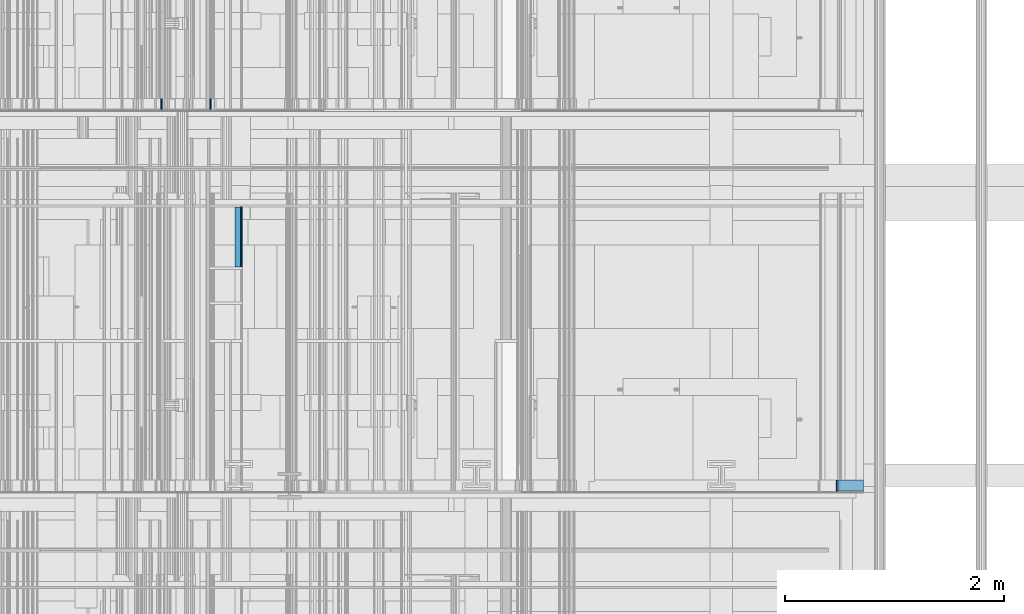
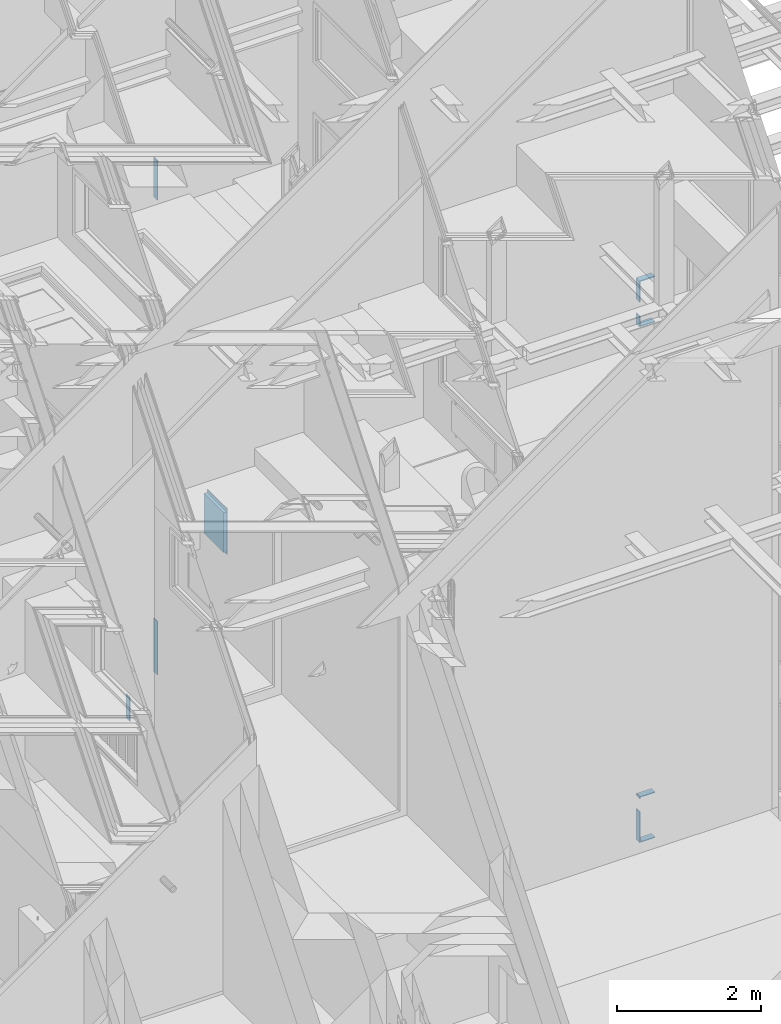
# One storey, part 227 of 583: 14 building element parts, 9 elements without a shape of their own.
"""IFC2X3 building model written with IfcOpenShell, lengths in metres."""

from ifc_helpers import new_model, entity, si_unit, converted_unit, derived_unit, money_unit, direction, frame, frame_2d, origin_with_axes, place, context, subcontext, project, spatial, polyline, rectangle, outline, extrude, material, type_object, element, aggregate, save


model = new_model("IFC2X3")

# Units and contexts
model_context = context("Model", 3, precision=1e-05, world=origin_with_axes(), true_north=direction((0.0, 1.0)))
body_context = subcontext(model_context, "Body", "Model", "MODEL_VIEW", scale=1.0)
ifc_project = project(units=[si_unit("LENGTHUNIT", "METRE"), si_unit("AREAUNIT", "SQUARE_METRE"), si_unit("VOLUMEUNIT", "CUBIC_METRE"), si_unit("ABSORBEDDOSEUNIT", "GRAY"), si_unit("AMOUNTOFSUBSTANCEUNIT", "MOLE"), si_unit("DOSEEQUIVALENTUNIT", "SIEVERT"), si_unit("ELECTRICCAPACITANCEUNIT", "FARAD"), si_unit("ELECTRICCHARGEUNIT", "COULOMB"), si_unit("ELECTRICCONDUCTANCEUNIT", "SIEMENS"), si_unit("ELECTRICCURRENTUNIT", "AMPERE"), si_unit("ELECTRICRESISTANCEUNIT", "OHM"), si_unit("ELECTRICVOLTAGEUNIT", "VOLT"), si_unit("ENERGYUNIT", "JOULE"), si_unit("FORCEUNIT", "NEWTON"), si_unit("FREQUENCYUNIT", "HERTZ"), si_unit("ILLUMINANCEUNIT", "LUX"), si_unit("INDUCTANCEUNIT", "HENRY"), si_unit("LUMINOUSFLUXUNIT", "LUMEN"), si_unit("LUMINOUSINTENSITYUNIT", "CANDELA"), si_unit("MAGNETICFLUXDENSITYUNIT", "TESLA"), si_unit("MAGNETICFLUXUNIT", "WEBER"), si_unit("MASSUNIT", "GRAM"), converted_unit("PLANEANGLEUNIT", "degree", entity("IfcReal", 0.0174532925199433), si_unit("PLANEANGLEUNIT", "RADIAN"), dimensions=[0, 0, 0, 0, 0, 0, 0]), si_unit("POWERUNIT", "WATT"), si_unit("PRESSUREUNIT", "PASCAL"), si_unit("RADIOACTIVITYUNIT", "BECQUEREL"), si_unit("SOLIDANGLEUNIT", "STERADIAN"), si_unit("THERMODYNAMICTEMPERATUREUNIT", "KELVIN"), si_unit("TIMEUNIT", "SECOND"), derived_unit("ACCELERATIONUNIT", [(si_unit("LENGTHUNIT", "METRE"), 1), (si_unit("TIMEUNIT", "SECOND"), -2)]), derived_unit("ANGULARVELOCITYUNIT", [(converted_unit("PLANEANGLEUNIT", "degree", entity("IfcReal", 0.0174532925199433), si_unit("PLANEANGLEUNIT", "RADIAN"), dimensions=[0, 0, 0, 0, 0, 0, 0]), 1), (si_unit("TIMEUNIT", "SECOND"), -1)]), derived_unit("CURVATUREUNIT", [(converted_unit("PLANEANGLEUNIT", "degree", entity("IfcReal", 0.0174532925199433), si_unit("PLANEANGLEUNIT", "RADIAN"), dimensions=[0, 0, 0, 0, 0, 0, 0]), 1), (si_unit("LENGTHUNIT", "METRE"), -1)]), derived_unit("DYNAMICVISCOSITYUNIT", [(si_unit("PRESSUREUNIT", "PASCAL"), 1), (si_unit("TIMEUNIT", "SECOND"), 1)]), derived_unit("HEATFLUXDENSITYUNIT", [(si_unit("POWERUNIT", "WATT"), 1), (si_unit("LENGTHUNIT", "METRE"), -2)]), derived_unit("HEATINGVALUEUNIT", [(si_unit("ENERGYUNIT", "JOULE"), 1), (si_unit("MASSUNIT", "GRAM"), -1)]), derived_unit("INTEGERCOUNTRATEUNIT", [(si_unit("TIMEUNIT", "SECOND"), -1)]), derived_unit("IONCONCENTRATIONUNIT", [(si_unit("MASSUNIT", "GRAM"), 1), (si_unit("VOLUMEUNIT", "CUBIC_METRE"), -1)]), derived_unit("ISOTHERMALMOISTURECAPACITYUNIT", [(si_unit("VOLUMEUNIT", "CUBIC_METRE"), 1), (si_unit("MASSUNIT", "GRAM"), -1)]), derived_unit("KINEMATICVISCOSITYUNIT", [(si_unit("AREAUNIT", "SQUARE_METRE"), 1), (si_unit("TIMEUNIT", "SECOND"), -1)]), derived_unit("LINEARFORCEUNIT", [(si_unit("FORCEUNIT", "NEWTON"), 1), (si_unit("LENGTHUNIT", "METRE"), -1)]), derived_unit("LINEARMOMENTUNIT", [(si_unit("FORCEUNIT", "NEWTON"), 1), (si_unit("LENGTHUNIT", "METRE"), -1)]), derived_unit("LINEARSTIFFNESSUNIT", [(si_unit("FORCEUNIT", "NEWTON"), 1), (si_unit("LENGTHUNIT", "METRE"), -1)]), derived_unit("LINEARVELOCITYUNIT", [(si_unit("LENGTHUNIT", "METRE"), 1), (si_unit("TIMEUNIT", "SECOND"), -1)]), derived_unit("LUMINOUSINTENSITYDISTRIBUTIONUNIT", [(si_unit("LUMINOUSINTENSITYUNIT", "CANDELA"), 1), (si_unit("LUMINOUSFLUXUNIT", "LUMEN"), -1)]), derived_unit("MASSDENSITYUNIT", [(si_unit("MASSUNIT", "GRAM"), 1), (si_unit("VOLUMEUNIT", "CUBIC_METRE"), -1)]), derived_unit("MASSFLOWRATEUNIT", [(si_unit("MASSUNIT", "GRAM"), 1), (si_unit("TIMEUNIT", "SECOND"), -1)]), derived_unit("MASSPERLENGTHUNIT", [(si_unit("MASSUNIT", "GRAM"), 1), (si_unit("LENGTHUNIT", "METRE"), -1)]), derived_unit("MODULUSOFELASTICITYUNIT", [(si_unit("FORCEUNIT", "NEWTON"), 1), (si_unit("AREAUNIT", "SQUARE_METRE"), -1)]), derived_unit("MODULUSOFLINEARSUBGRADEREACTIONUNIT", [(si_unit("FORCEUNIT", "NEWTON"), 1), (si_unit("LENGTHUNIT", "METRE"), -2)]), derived_unit("MODULUSOFROTATIONALSUBGRADEREACTIONUNIT", [(si_unit("FORCEUNIT", "NEWTON"), 1), (si_unit("LENGTHUNIT", "METRE"), 1)]), derived_unit("MODULUSOFSUBGRADEREACTIONUNIT", [(si_unit("FORCEUNIT", "NEWTON"), 1), (si_unit("VOLUMEUNIT", "CUBIC_METRE"), -1)]), derived_unit("MOISTUREDIFFUSIVITYUNIT", [(si_unit("VOLUMEUNIT", "CUBIC_METRE"), 1), (si_unit("TIMEUNIT", "SECOND"), -1)]), derived_unit("MOLECULARWEIGHTUNIT", [(si_unit("MASSUNIT", "GRAM"), 1), (si_unit("AMOUNTOFSUBSTANCEUNIT", "MOLE"), -1)]), derived_unit("PLANARFORCEUNIT", [(si_unit("FORCEUNIT", "NEWTON"), 1), (si_unit("LENGTHUNIT", "METRE"), -2)]), derived_unit("ROTATIONALFREQUENCYUNIT", [(si_unit("TIMEUNIT", "SECOND"), -1)]), derived_unit("ROTATIONALMASSUNIT", [(si_unit("MASSUNIT", "GRAM"), 1), (si_unit("LENGTHUNIT", "METRE"), 2)]), derived_unit("ROTATIONALSTIFFNESSUNIT", [(si_unit("FORCEUNIT", "NEWTON"), 1), (si_unit("LENGTHUNIT", "METRE"), 1), (converted_unit("PLANEANGLEUNIT", "degree", entity("IfcReal", 0.0174532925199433), si_unit("PLANEANGLEUNIT", "RADIAN"), dimensions=[0, 0, 0, 0, 0, 0, 0]), -1)]), derived_unit("SECTIONAREAINTEGRALUNIT", [(si_unit("LENGTHUNIT", "METRE"), 5)]), derived_unit("SECTIONMODULUSUNIT", [(si_unit("LENGTHUNIT", "METRE"), 3)]), derived_unit("SHEARMODULUSUNIT", [(si_unit("FORCEUNIT", "NEWTON"), 1), (si_unit("AREAUNIT", "SQUARE_METRE"), -1)]), derived_unit("SOUNDPOWERUNIT", [(si_unit("ENERGYUNIT", "JOULE"), 1), (si_unit("TIMEUNIT", "SECOND"), -1)]), derived_unit("SPECIFICHEATCAPACITYUNIT", [(si_unit("FORCEUNIT", "NEWTON"), 1), (si_unit("MASSUNIT", "GRAM"), -1), (si_unit("THERMODYNAMICTEMPERATUREUNIT", "KELVIN"), -1)]), derived_unit("TEMPERATUREGRADIENTUNIT", [(si_unit("THERMODYNAMICTEMPERATUREUNIT", "KELVIN"), 1), (si_unit("LENGTHUNIT", "METRE"), -1)]), derived_unit("THERMALADMITTANCEUNIT", [(si_unit("POWERUNIT", "WATT"), 1), (si_unit("AREAUNIT", "SQUARE_METRE"), -1), (si_unit("THERMODYNAMICTEMPERATUREUNIT", "KELVIN"), -1)]), derived_unit("THERMALCONDUCTANCEUNIT", [(si_unit("POWERUNIT", "WATT"), 1), (si_unit("LENGTHUNIT", "METRE"), -1), (si_unit("THERMODYNAMICTEMPERATUREUNIT", "KELVIN"), -1)]), derived_unit("THERMALEXPANSIONCOEFFICIENTUNIT", [(si_unit("THERMODYNAMICTEMPERATUREUNIT", "KELVIN"), -1)]), derived_unit("THERMALRESISTANCEUNIT", [(si_unit("AREAUNIT", "SQUARE_METRE"), 1), (si_unit("POWERUNIT", "WATT"), -1)]), derived_unit("THERMALTRANSMITTANCEUNIT", [(si_unit("POWERUNIT", "WATT"), 1), (si_unit("AREAUNIT", "SQUARE_METRE"), -1), (si_unit("THERMODYNAMICTEMPERATUREUNIT", "KELVIN"), -1)]), derived_unit("TORQUEUNIT", [(si_unit("FORCEUNIT", "NEWTON"), 1), (si_unit("LENGTHUNIT", "METRE"), 1)]), derived_unit("VAPORPERMEABILITYUNIT", [(si_unit("MASSUNIT", "GRAM"), 1), (si_unit("TIMEUNIT", "SECOND"), -1)]), derived_unit("VOLUMETRICFLOWRATEUNIT", [(si_unit("VOLUMEUNIT", "CUBIC_METRE"), 1), (si_unit("TIMEUNIT", "SECOND"), -1)]), derived_unit("WARPINGCONSTANTUNIT", [(si_unit("LENGTHUNIT", "METRE"), 6)]), derived_unit("WARPINGMOMENTUNIT", [(si_unit("FORCEUNIT", "NEWTON"), 1), (si_unit("LENGTHUNIT", "METRE"), 2)]), money_unit("GBP")], contexts=[model_context])

# Site, building, storey
site_placement = place(None, origin_with_axes())
site = spatial("IfcSite", under=ifc_project, at=site_placement, Name="Site", CompositionType="ELEMENT")
building_placement = place(site_placement, origin_with_axes())
building = spatial("IfcBuilding", under=site, at=building_placement, Name="Building01", CompositionType="ELEMENT")
storey_placement = place(building_placement, frame((0.0, 0.0, 20.78), z_axis=(0.0, 0.0, 1.0), x_axis=(1.0, 0.0, 0.0)))
storey = spatial("IfcBuildingStorey", under=building, at=storey_placement, Name="RL", CompositionType="ELEMENT", Elevation=20.78)

# Wall, building element part
wall_type_1 = type_object("IfcWallType", Name="SHE_A-Walls_Type04c_RiserWall_102mm_tall", PredefinedType="NOTDEFINED")
wall_1_placement = place(storey_placement, frame((8.372405, 12.145, -12.122), z_axis=(0.0, 1.0, 0.0), x_axis=(0.0, 0.0, 1.0)))
wall_1 = element("IfcWall", 1, at=wall_1_placement, inside=storey, type_object=wall_type_1, Name="4C", ObjectType="SHE_A-Walls_Type04c_RiserWall_102mm_tall")
ifc_material_1 = material(Name="A_BSUK_Walls_Timber")
building_element_part_1_placement = place(wall_1_placement, origin_with_axes())
building_element_part_1 = element("IfcBuildingElementPart", 2, at=building_element_part_1_placement, material=ifc_material_1, Name="1", context=body_context, shape_type="SweptSolid", body=[
    extrude(outline(polyline([(0.402, 0.015), (-0.015, 0.015), (0.0, 0.0), (0.402, 0.0), (0.402, 0.015)])), origin_with_axes(), (0.0, 0.0, 1.0), 0.1),
])
aggregate(wall_1, [building_element_part_1])

# Wall, building element parts
wall_type_2 = type_object("IfcWallType", Name="SHE_A-Walls_Type03a_BlockworkWall_170mm", PredefinedType="NOTDEFINED")
wall_2_placement = place(storey_placement, frame((8.805, 12.13, -2.795), z_axis=(0.0, 1.0, 0.0), x_axis=(0.0, 0.0, -1.0)))
wall_2 = element("IfcWall", 3, at=wall_2_placement, inside=storey, type_object=wall_type_2, Name="4B", ObjectType="SHE_A-Walls_Type03a_BlockworkWall_170mm")
placement_1 = place(wall_2_placement, origin_with_axes())
building_element_part_2 = element("IfcBuildingElementPart", 4, at=placement_1, material=ifc_material_1, Name="5", context=body_context, shape_type="SweptSolid", body=[
    extrude(rectangle(XDim=0.015, YDim=0.015, at=frame_2d((-0.0225, -0.0225), x_axis=(-1.0, 0.0))), frame((0.0, 0.0, 0.015), z_axis=(0.0, 0.0, 1.0), x_axis=(1.0, 0.0, 0.0)), (0.0, 0.0, 1.0), 0.1),
])
building_element_part_3 = element("IfcBuildingElementPart", 5, at=placement_1, material=ifc_material_1, Name="9", context=body_context, shape_type="SweptSolid", body=[
    extrude(rectangle(XDim=0.651868, YDim=0.015, at=frame_2d((0.310934, -0.0225), x_axis=(-1.0, 0.0))), frame((0.0, 0.0, 0.015), z_axis=(0.0, 0.0, 1.0), x_axis=(1.0, 0.0, 0.0)), (0.0, 0.0, 1.0), 0.1),
])
building_element_part_4 = element("IfcBuildingElementPart", 6, at=placement_1, material=ifc_material_1, Name="10", context=body_context, shape_type="SweptSolid", body=[
    extrude(rectangle(XDim=0.908871, YDim=0.015, at=frame_2d((8.245565, -0.0225), x_axis=(-1.0, 0.0))), frame((0.0, 0.0, 0.015), z_axis=(0.0, 0.0, 1.0), x_axis=(1.0, 0.0, 0.0)), (0.0, 0.0, 1.0), 0.1),
])
aggregate(wall_2, [building_element_part_2, building_element_part_3, building_element_part_4])

wall_type_3 = type_object("IfcWallType", Name="SHE_A-Walls_Type05c_PreWallShell_65mm", PredefinedType="NOTDEFINED")
wall_3_placement = place(storey_placement, frame((9.055, 10.705, -8.626129), z_axis=(0.0, 1.0, 0.0), x_axis=(0.0, 0.0, 1.0)))
wall_3 = element("IfcWall", 7, at=wall_3_placement, inside=storey, type_object=wall_type_3, Name="5C", ObjectType="SHE_A-Walls_Type05c_PreWallShell_65mm")
ifc_material_2 = material(Name="A_BSUK_OpeningsClearance")
placement_2 = place(wall_3_placement, origin_with_axes())
building_element_part_5 = element("IfcBuildingElementPart", 8, at=placement_2, material=ifc_material_2, Name="1", context=body_context, shape_type="SweptSolid", body=[
    extrude(rectangle(XDim=0.674714, YDim=0.05, at=frame_2d((0.337357, 0.025), x_axis=(-1.0, 0.0))), origin_with_axes(), (0.0, 0.0, 1.0), 0.55),
])
building_element_part_6 = element("IfcBuildingElementPart", 9, at=placement_2, material=ifc_material_1, Name="2", context=body_context, shape_type="SweptSolid", body=[
    extrude(rectangle(XDim=0.774714, YDim=0.015, at=frame_2d((0.337357, 0.0575), x_axis=(-1.0, 0.0))), origin_with_axes(), (0.0, 0.0, 1.0), 0.55),
])
aggregate(wall_3, [building_element_part_5, building_element_part_6])

# Wall, building element part
wall_type_4 = type_object("IfcWallType", Name="SHE_A-Walls_Type06f_ExternalWallInsulation_48+15mm", PredefinedType="NOTDEFINED")
wall_4_placement = place(storey_placement, frame((14.63, 8.64, -13.533), z_axis=(0.0, 1.0, 0.0), x_axis=(1.0, 0.0, 0.0)))
wall_4 = element("IfcWall", 10, at=wall_4_placement, inside=storey, type_object=wall_type_4, Name="6F", ObjectType="SHE_A-Walls_Type06f_ExternalWallInsulation_48+15mm")
building_element_part_7_placement = place(wall_4_placement, origin_with_axes())
building_element_part_7 = element("IfcBuildingElementPart", 11, at=building_element_part_7_placement, material=ifc_material_1, Name="2", context=body_context, shape_type="SweptSolid", body=[
    extrude(rectangle(XDim=0.233, YDim=0.015, at=frame_2d((0.0535, -0.0705), x_axis=(-1.0, 0.0))), frame((0.0, 0.0, 0.015), z_axis=(0.0, 0.0, 1.0), x_axis=(1.0, 0.0, 0.0)), (0.0, 0.0, 1.0), 0.1),
])
aggregate(wall_4, [building_element_part_7])

wall_5_placement = place(storey_placement, frame((14.63, 8.64, -14.157124), z_axis=(0.0, 1.0, 0.0), x_axis=(1.0, 0.0, 0.0)))
wall_5 = element("IfcWall", 12, at=wall_5_placement, inside=storey, type_object=wall_type_4, Name="6F", ObjectType="SHE_A-Walls_Type06f_ExternalWallInsulation_48+15mm")
building_element_part_8_placement = place(wall_5_placement, origin_with_axes())
building_element_part_8 = element("IfcBuildingElementPart", 13, at=building_element_part_8_placement, material=ifc_material_1, Name="2", context=body_context, shape_type="SweptSolid", body=[
    extrude(outline(polyline([(0.17, 0.078), (-0.078, 0.078), (-0.063, 0.063), (0.17, 0.063), (0.17, 0.078)])), frame((0.0, 0.0, 0.015), z_axis=(0.0, 0.0, 1.0), x_axis=(1.0, 0.0, 0.0)), (0.0, 0.0, 1.0), 0.1),
])
aggregate(wall_5, [building_element_part_8])

# Wall, building element parts
wall_6_placement = place(storey_placement, frame((14.63, 8.64, -13.497), z_axis=(0.0, 1.0, 0.0), x_axis=(0.0, 0.0, -1.0)))
wall_6 = element("IfcWall", 14, at=wall_6_placement, inside=storey, type_object=wall_type_4, Name="6F", ObjectType="SHE_A-Walls_Type06f_ExternalWallInsulation_48+15mm")
placement_3 = place(wall_6_placement, origin_with_axes())
building_element_part_9 = element("IfcBuildingElementPart", 15, at=placement_3, material=ifc_material_1, Name="2", context=body_context, shape_type="SweptSolid", body=[
    extrude(rectangle(XDim=0.035331, YDim=0.015, at=frame_2d((-0.024334, 0.0705), x_axis=(-1.0, 0.0))), frame((0.0, 0.0, 0.015), z_axis=(0.0, 0.0, 1.0), x_axis=(1.0, 0.0, 0.0)), (0.0, 0.0, 1.0), 0.1),
])
building_element_part_10 = element("IfcBuildingElementPart", 16, at=placement_3, material=ifc_material_1, Name="4", context=body_context, shape_type="SweptSolid", body=[
    extrude(outline(polyline([(0.738124, 0.078), (0.218331, 0.078), (0.218331, 0.063), (0.723124, 0.063), (0.738124, 0.078)])), frame((0.0, 0.0, 0.015), z_axis=(0.0, 0.0, 1.0), x_axis=(1.0, 0.0, 0.0)), (0.0, 0.0, 1.0), 0.1),
])
aggregate(wall_6, [building_element_part_9, building_element_part_10])

# Wall, building element part
wall_7_placement = place(storey_placement, frame((14.63, 8.64, -5.397), z_axis=(0.0, 1.0, 0.0), x_axis=(1.0, 0.0, 0.0)))
wall_7 = element("IfcWall", 17, at=wall_7_placement, inside=storey, type_object=wall_type_4, Name="6F", ObjectType="SHE_A-Walls_Type06f_ExternalWallInsulation_48+15mm")
building_element_part_11_placement = place(wall_7_placement, origin_with_axes())
building_element_part_11 = element("IfcBuildingElementPart", 18, at=building_element_part_11_placement, material=ifc_material_1, Name="2", context=body_context, shape_type="SweptSolid", body=[
    extrude(outline(polyline([(0.17, 0.078), (-0.078, 0.078), (-0.063, 0.063), (0.17, 0.063), (0.17, 0.078)])), frame((0.0, 0.0, 0.015), z_axis=(0.0, 0.0, 1.0), x_axis=(1.0, 0.0, 0.0)), (0.0, 0.0, 1.0), 0.1),
])
aggregate(wall_7, [building_element_part_11])

# Wall, building element parts
wall_8_placement = place(storey_placement, frame((14.63, 8.64, -4.736876), z_axis=(0.0, 1.0, 0.0), x_axis=(0.0, 0.0, -1.0)))
wall_8 = element("IfcWall", 19, at=wall_8_placement, inside=storey, type_object=wall_type_4, Name="6F", ObjectType="SHE_A-Walls_Type06f_ExternalWallInsulation_48+15mm")
placement_4 = place(wall_8_placement, origin_with_axes())
building_element_part_12 = element("IfcBuildingElementPart", 20, at=placement_4, material=ifc_material_1, Name="2", context=body_context, shape_type="SweptSolid", body=[
    extrude(outline(polyline([(0.319992, 0.078), (-0.042, 0.078), (-0.027, 0.063), (0.319992, 0.063), (0.319992, 0.078)])), frame((0.0, 0.0, 0.015), z_axis=(0.0, 0.0, 1.0), x_axis=(1.0, 0.0, 0.0)), (0.0, 0.0, 1.0), 0.1),
])
building_element_part_13 = element("IfcBuildingElementPart", 21, at=placement_4, material=ifc_material_1, Name="4", context=body_context, shape_type="SweptSolid", body=[
    extrude(outline(polyline([(0.738124, 0.078), (0.559992, 0.078), (0.559992, 0.063), (0.723124, 0.063), (0.738124, 0.078)])), frame((0.0, 0.0, 0.015), z_axis=(0.0, 0.0, 1.0), x_axis=(1.0, 0.0, 0.0)), (0.0, 0.0, 1.0), 0.1),
])
aggregate(wall_8, [building_element_part_12, building_element_part_13])

# Wall, building element part
wall_9_placement = place(storey_placement, frame((14.63, 8.64, -4.772876), z_axis=(0.0, 1.0, 0.0), x_axis=(1.0, 0.0, 0.0)))
wall_9 = element("IfcWall", 22, at=wall_9_placement, inside=storey, type_object=wall_type_4, Name="6F", ObjectType="SHE_A-Walls_Type06f_ExternalWallInsulation_48+15mm")
building_element_part_14_placement = place(wall_9_placement, origin_with_axes())
building_element_part_14 = element("IfcBuildingElementPart", 23, at=building_element_part_14_placement, material=ifc_material_1, Name="2", context=body_context, shape_type="SweptSolid", body=[
    extrude(outline(polyline([(0.17, -0.063), (-0.063, -0.063), (-0.078, -0.078), (0.17, -0.078), (0.17, -0.063)])), frame((0.0, 0.0, 0.015), z_axis=(0.0, 0.0, 1.0), x_axis=(1.0, 0.0, 0.0)), (0.0, 0.0, 1.0), 0.1),
])
aggregate(wall_9, [building_element_part_14])

save(model, "model.ifc")
